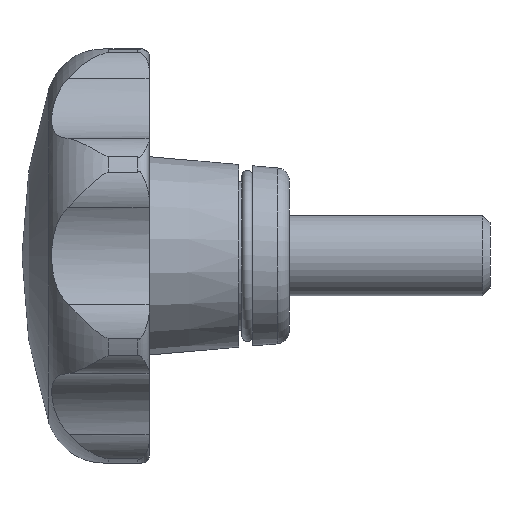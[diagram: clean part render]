
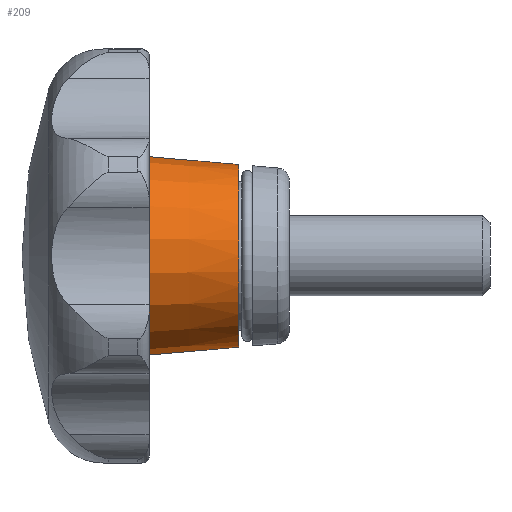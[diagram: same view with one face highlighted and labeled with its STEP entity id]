
A CAD part, left-side view. The second image highlights one B-rep face of the part: STEP entity #209.
In plain terms, the highlighted conical face has half-angle 5 degrees and reference radius 15.627 mm.
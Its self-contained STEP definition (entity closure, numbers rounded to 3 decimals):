
#209 = ADVANCED_FACE( '', ( #416, #417 ), #418, .T. );
#416 = FACE_BOUND( '', #754, .T. );
#417 = FACE_OUTER_BOUND( '', #755, .T. );
#418 = CONICAL_SURFACE( '', #756, 15.627, 0.087 );
#754 = EDGE_LOOP( '', ( #1269 ) );
#755 = EDGE_LOOP( '', ( #1270 ) );
#756 = AXIS2_PLACEMENT_3D( '', #1271, #1272, #1273 );
#1269 = ORIENTED_EDGE( '', *, *, #2186, .F. );
#1270 = ORIENTED_EDGE( '', *, *, #2187, .T. );
#1271 = CARTESIAN_POINT( '', ( 0., 30.055, 0. ) );
#1272 = DIRECTION( '', ( 0., 1., 0. ) );
#1273 = DIRECTION( '', ( 0., 0., 1. ) );
#2186 = EDGE_CURVE( '', #2621, #2621, #2622, .T. );
#2187 = EDGE_CURVE( '', #2623, #2623, #2624, .T. );
#2621 = VERTEX_POINT( '', #3845 );
#2622 = CIRCLE( '', #3846, 13.663 );
#2623 = VERTEX_POINT( '', #3847 );
#2624 = CIRCLE( '', #3848, 15.627 );
#3845 = CARTESIAN_POINT( '', ( 0., 7.6, -13.663 ) );
#3846 = AXIS2_PLACEMENT_3D( '', #4921, #4922, #4923 );
#3847 = CARTESIAN_POINT( '', ( 0., 30.055, -15.627 ) );
#3848 = AXIS2_PLACEMENT_3D( '', #4924, #4925, #4926 );
#4921 = CARTESIAN_POINT( '', ( 0., 7.6, 0. ) );
#4922 = DIRECTION( '', ( 0., -1., 0. ) );
#4923 = DIRECTION( '', ( 0., 0., -1. ) );
#4924 = CARTESIAN_POINT( '', ( 0., 30.055, 0. ) );
#4925 = DIRECTION( '', ( 0., -1., 0. ) );
#4926 = DIRECTION( '', ( 0., 0., -1. ) );
